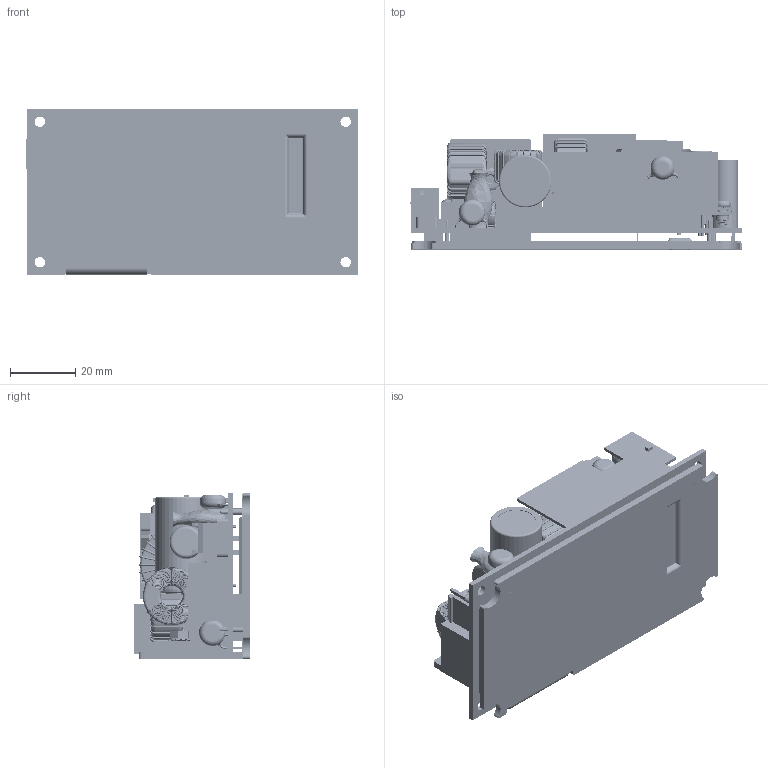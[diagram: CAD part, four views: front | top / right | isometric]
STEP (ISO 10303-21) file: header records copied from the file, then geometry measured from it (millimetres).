
FILE_DESCRIPTION (( 'STEP AP214' ), '1' );
FILE_NAME ('CFM200M OPEN SPEC(01)-1060316.STEP', '2018-01-24T06:57:41', ( 'cincon' ), ( '' ), 'SwSTEP 2.0', 'SolidWorks 2008', '' );
FILE_SCHEMA (( 'AUTOMOTIVE_DESIGN' ));
Length unit declared in the file: millimetre
Products named in the file (28): OptoCoupler TLP521-2; CFM200M CY5-1060315 ; CFM200M PCB-1041020-A_預設; C-1021126_預設; CFM200M 2PIN插座(90度)-1041020; M3x6螺絲端子座示意圖 102,08,29; CFM200M-變壓器1_預設; 3 PIN插座(2PIN)-1021126; CORE-2-1041020; 16.1mm電容; CFM200M 150W-L1-1060315_預設; CFM200M FORMEX GK-17(轉摺)G612911A404-1050822_預設; 橋式整流器電晶體_預設; M3x8L螺絲(M-C449-00-S)G75A1100643(頭徑5.0)碩品; CFM80M L4 100,01,24; CORE-3-1031222; CFM200M鋁板散熱片G6612180412 (M-B132-00-J)-1050623_預設; CFM200M 陶瓷電容-1060315_預設; CFM200M PCB-1050606-B_預設; 墊片A-1060315_預設; 螺母M3齒型華司-1030307; L5墊片-1060315_預設; CFM200M CY3-1060315; CFM200M CY1-1060315; CFM200M CY2 106; CFM200M 電晶體(90度)-1041020_預設; CFM200M SO-10; CFM200M OPEN SPEC(01)-1060316
Assembly tree (33 placements, depth 2):
  CFM200M OPEN SPEC(01)-1060316
    螺母M3齒型華司-1030307
    CFM200M 電晶體(90度)-1041020_預設
    CFM200M CY1-1060315
    CFM200M 2PIN插座(90度)-1041020
    CFM200M 150W-L1-1060315_預設
    CFM200M CY5-1060315   x5
    CFM200M SO-10
    OptoCoupler TLP521-2
    CFM200M CY3-1060315
    CFM200M CY2 106
    CFM200M FORMEX GK-17(轉摺)G612911A404-1050822_預設
    CFM200M PCB-1041020-A_預設
    CFM200M PCB-1050606-B_預設
    M3x6螺絲端子座示意圖 102,08,29  x2
    CFM200M鋁板散熱片G6612180412 (M-B132-00-J)-1050623_預設
    L5墊片-1060315_預設
    3 PIN插座(2PIN)-1021126
    CFM200M 陶瓷電容-1060315_預設
    CORE-2-1041020
    CFM80M L4 100,01,24
    墊片A-1060315_預設
    16.1mm電容
    CORE-3-1031222
    橋式整流器電晶體_預設
    C-1021126_預設  x2
    CFM200M-變壓器1_預設
    M3x8L螺絲(M-C449-00-S)G75A1100643(頭徑5.0)碩品
Bounding box: 102.06 x 35.41 x 50.8 mm (x, y, z)
Volume: 82523 mm3; surface area: 75403 mm2
Topology: 47 solids, 49 shells, 6076 faces, 17286 edges, 10930 vertices
Faces by surface type: bspline 2910, plane 1398, cylinder 1206, torus 484, cone 78
Entity records: 308007 total; most frequent: CARTESIAN_POINT 151343, ORIENTED_EDGE 32962, DIRECTION 19640, EDGE_CURVE 16483, VERTEX_POINT 10418, AXIS2_PLACEMENT_3D 7050, EDGE_LOOP 5935, FACE_OUTER_BOUND 5778
